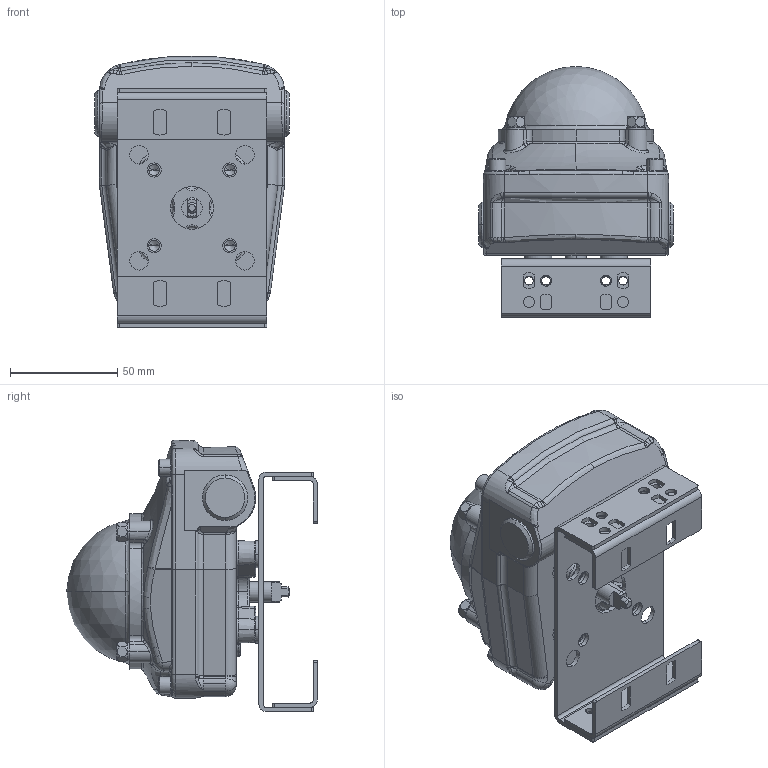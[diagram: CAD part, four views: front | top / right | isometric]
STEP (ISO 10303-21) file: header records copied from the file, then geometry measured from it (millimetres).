
FILE_DESCRIPTION (( 'STEP AP214' ), '1' );
FILE_NAME ('S5A_with_AdjustableBracket_30X80.STEP', '2018-10-12T12:58:28', ( '' ), ( '' ), 'SwSTEP 2.0', 'SolidWorks 2018', '' );
FILE_SCHEMA (( 'AUTOMOTIVE_DESIGN' ));
Length unit declared in the file: millimetre
Products named in the file (3): S5A_with_AdjustableBracket_30X80; S5A_8_Simple; Adjustable Bracket 30X80-Simple
Assembly tree (2 placements, depth 2):
  S5A_with_AdjustableBracket_30X80
    S5A_8_Simple
    Adjustable Bracket 30X80-Simple
Bounding box: 91.06 x 117.15 x 126.83 mm (x, y, z)
Volume: 521688.6 mm3; surface area: 75492.7 mm2
Topology: 4 solids, 4 shells, 825 faces, 2058 edges, 1234 vertices
Faces by surface type: cylinder 266, plane 172, bspline 169, cone 103, torus 99, sphere 16
Entity records: 38739 total; most frequent: CARTESIAN_POINT 12642, ORIENTED_EDGE 4068, DIRECTION 3731, EDGE_CURVE 2034, AXIS2_PLACEMENT_3D 1558, VERTEX_POINT 1234, EDGE_LOOP 916, CIRCLE 897
